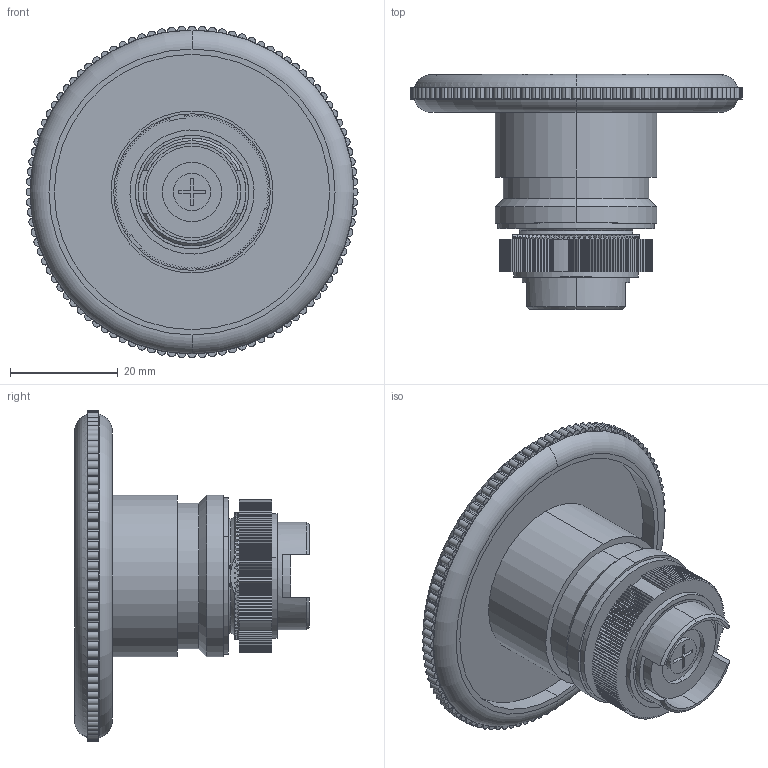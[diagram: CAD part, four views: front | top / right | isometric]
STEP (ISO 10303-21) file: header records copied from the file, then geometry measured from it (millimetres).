
FILE_DESCRIPTION (( 'STEP AP214' ), '1' );
FILE_NAME ('3D 斁麧錪 MTB2-ES64.STEP', '2017-08-28T08:53:38', ( '' ), ( '' ), 'SwSTEP 2.0', 'SolidWorks 2011', '' );
FILE_SCHEMA (( 'AUTOMOTIVE_DESIGN' ));
Length unit declared in the file: millimetre
Products named in the file (4): Êîëüöî-ãàéêà; 扱闀罻 MTB2-ES64; 暑朦鲱 箫腩蝽栩咫铄; 3D 斁麧錪 MTB2-ES64
Assembly tree (3 placements, depth 2):
  3D 斁麧錪 MTB2-ES64
    扱闀罻 MTB2-ES64
    暑朦鲱 箫腩蝽栩咫铄
    Êîëüöî-ãàéêà
Bounding box: 61.5 x 43.5 x 61.5 mm (x, y, z)
Volume: 34362.2 mm3; surface area: 17657.8 mm2
Topology: 4 solids, 4 shells, 1165 faces, 3172 edges, 2032 vertices
Faces by surface type: plane 698, cylinder 342, bspline 74, cone 47, torus 4
Entity records: 48753 total; most frequent: CARTESIAN_POINT 13593, ORIENTED_EDGE 6344, DIRECTION 5846, EDGE_CURVE 3172, AXIS2_PLACEMENT_3D 2157, VERTEX_POINT 2032, VECTOR 1532, LINE 1532
